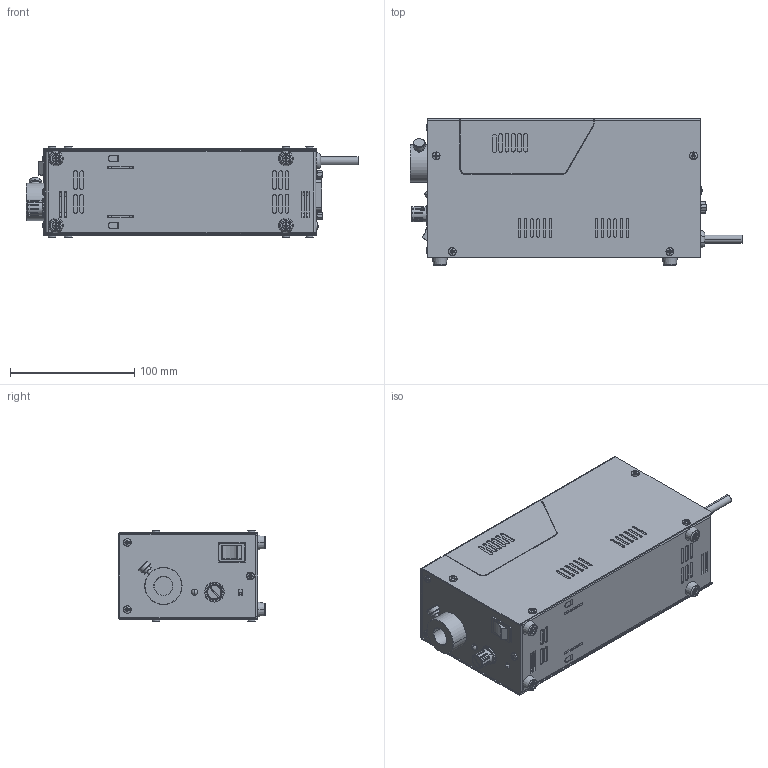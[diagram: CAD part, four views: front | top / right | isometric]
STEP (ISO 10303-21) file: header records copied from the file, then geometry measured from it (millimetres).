
FILE_DESCRIPTION (( 'STEP AP203' ), '1' );
FILE_NAME ('MHF-V501_A09822A0300121B-001.STEP', '2014-08-06T03:43:55', ( '' ), ( '' ), 'SwSTEP 2.0', 'SolidWorks 2011', '' );
FILE_SCHEMA (( 'CONFIG_CONTROL_DESIGN' ));
Products named in the file (1): MHF-V501_A09822A0300121B-001
Bounding box: 267 x 118 x 73.69 mm (x, y, z)
Volume: 1715676.7 mm3; surface area: 111348.9 mm2
Topology: 1 solids, 18 shells, 1685 faces, 4114 edges, 2562 vertices
Faces by surface type: plane 865, cylinder 475, cone 200, torus 99, sphere 38, bspline 8
Entity records: 50331 total; most frequent: CARTESIAN_POINT 9981, DIRECTION 8916, ORIENTED_EDGE 8132, EDGE_CURVE 4066, AXIS2_PLACEMENT_3D 3447, VERTEX_POINT 2560, VECTOR 2022, LINE 2022
